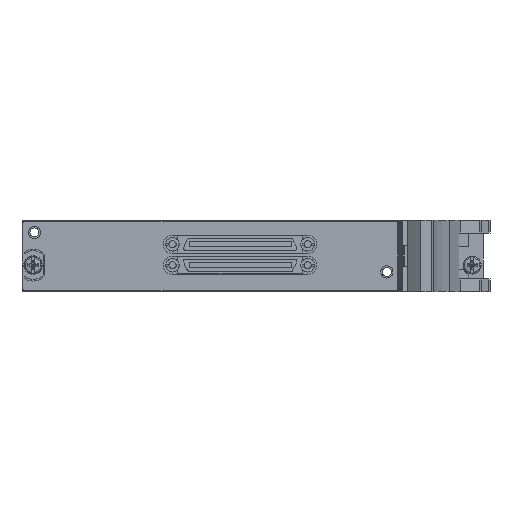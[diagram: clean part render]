
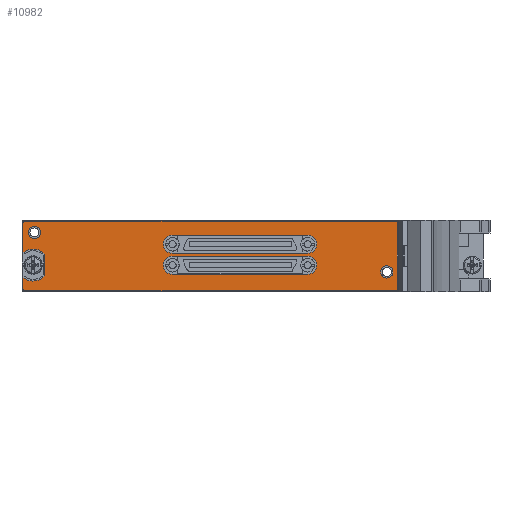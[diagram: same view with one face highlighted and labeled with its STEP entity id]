
A CAD part, left-side view. The second image highlights one B-rep face of the part: STEP entity #10982.
In plain terms, the highlighted planar face has unit normal (-1, 0, 0).
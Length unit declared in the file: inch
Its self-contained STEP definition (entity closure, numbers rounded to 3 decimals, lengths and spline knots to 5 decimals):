
#2601=CARTESIAN_POINT('',(-0.215,0.53465,0.665));
#2602=DIRECTION('',(-1.,0.,0.));
#2603=DIRECTION('',(0.,0.,1.));
#2604=AXIS2_PLACEMENT_3D('',#2601,#2602,#2603);
#2606=DIRECTION('',(0.,1.,0.));
#2607=VECTOR('',#2606,4.07);
#2608=CARTESIAN_POINT('',(-0.215,-3.53535,0.685));
#2609=LINE('',#2608,#2607);
#2610=CARTESIAN_POINT('',(-0.215,-3.53535,0.665));
#2611=DIRECTION('',(-1.,0.,0.));
#2612=DIRECTION('',(0.,-1.,0.));
#2613=AXIS2_PLACEMENT_3D('',#2610,#2611,#2612);
#2615=DIRECTION('',(0.,0.,1.));
#2616=VECTOR('',#2615,0.728);
#2617=CARTESIAN_POINT('',(-0.215,-3.55535,-0.063));
#2618=LINE('',#2617,#2616);
#2619=CARTESIAN_POINT('',(-0.215,-3.53535,-0.063));
#2620=DIRECTION('',(-1.,0.,0.));
#2621=DIRECTION('',(0.,0.,-1.));
#2622=AXIS2_PLACEMENT_3D('',#2619,#2620,#2621);
#2624=DIRECTION('',(0.,-1.,0.));
#2625=VECTOR('',#2624,4.07);
#2626=CARTESIAN_POINT('',(-0.215,0.53465,-0.083));
#2627=LINE('',#2626,#2625);
#2628=CARTESIAN_POINT('',(-0.215,0.53465,-0.063));
#2629=DIRECTION('',(-1.,0.,0.));
#2630=DIRECTION('',(0.,1.,0.));
#2631=AXIS2_PLACEMENT_3D('',#2628,#2629,#2630);
#2633=DIRECTION('',(0.,0.,-1.));
#2634=VECTOR('',#2633,0.12953);
#2635=CARTESIAN_POINT('',(-0.215,0.55465,0.06653));
#2636=LINE('',#2635,#2634);
#2637=CARTESIAN_POINT('',(-0.215,0.44265,0.201));
#2638=DIRECTION('',(1.,0.,0.));
#2639=DIRECTION('',(0.,-0.737,-0.676));
#2640=AXIS2_PLACEMENT_3D('',#2637,#2638,#2639);
#2642=DIRECTION('',(0.,0.,-1.));
#2643=VECTOR('',#2642,0.23651);
#2644=CARTESIAN_POINT('',(-0.215,0.31365,0.31925));
#2645=LINE('',#2644,#2643);
#2646=CARTESIAN_POINT('',(-0.215,0.44265,0.201));
#2647=DIRECTION('',(1.,0.,0.));
#2648=DIRECTION('',(0.,0.64,0.768));
#2649=AXIS2_PLACEMENT_3D('',#2646,#2647,#2648);
#2651=DIRECTION('',(0.,0.,-1.));
#2652=VECTOR('',#2651,0.32953);
#2653=CARTESIAN_POINT('',(-0.215,0.55465,0.665));
#2654=LINE('',#2653,#2652);
#2655=CARTESIAN_POINT('',(-0.215,0.42838,0.56));
#2656=DIRECTION('',(-1.,0.,0.));
#2657=DIRECTION('',(0.,0.,1.));
#2658=AXIS2_PLACEMENT_3D('',#2655,#2656,#2657);
#2660=CARTESIAN_POINT('',(-0.215,0.42838,0.56));
#2661=DIRECTION('',(-1.,0.,0.));
#2662=DIRECTION('',(0.,0.,-1.));
#2663=AXIS2_PLACEMENT_3D('',#2660,#2661,#2662);
#2665=CARTESIAN_POINT('',(-0.215,-3.44062,0.126));
#2666=DIRECTION('',(-1.,0.,0.));
#2667=DIRECTION('',(0.,0.,1.));
#2668=AXIS2_PLACEMENT_3D('',#2665,#2666,#2667);
#2670=CARTESIAN_POINT('',(-0.215,-3.44062,0.126));
#2671=DIRECTION('',(-1.,0.,0.));
#2672=DIRECTION('',(0.,0.,-1.));
#2673=AXIS2_PLACEMENT_3D('',#2670,#2671,#2672);
#2675=CARTESIAN_POINT('',(-0.215,-1.08735,0.4298));
#2676=DIRECTION('',(-1.,0.,0.));
#2677=DIRECTION('',(0.,0.,1.));
#2678=AXIS2_PLACEMENT_3D('',#2675,#2676,#2677);
#2680=DIRECTION('',(0.,-1.,0.));
#2681=VECTOR('',#2680,1.484);
#2682=CARTESIAN_POINT('',(-0.215,-1.08735,0.3298));
#2683=LINE('',#2682,#2681);
#2684=CARTESIAN_POINT('',(-0.215,-2.57135,0.4298));
#2685=DIRECTION('',(-1.,0.,0.));
#2686=DIRECTION('',(0.,0.,-1.));
#2687=AXIS2_PLACEMENT_3D('',#2684,#2685,#2686);
#2689=DIRECTION('',(0.,1.,0.));
#2690=VECTOR('',#2689,1.484);
#2691=CARTESIAN_POINT('',(-0.215,-2.57135,0.5298));
#2692=LINE('',#2691,#2690);
#2693=CARTESIAN_POINT('',(-0.215,-1.08735,0.1998));
#2694=DIRECTION('',(-1.,0.,0.));
#2695=DIRECTION('',(0.,0.,1.));
#2696=AXIS2_PLACEMENT_3D('',#2693,#2694,#2695);
#2698=DIRECTION('',(0.,-1.,0.));
#2699=VECTOR('',#2698,1.484);
#2700=CARTESIAN_POINT('',(-0.215,-1.08735,0.0998));
#2701=LINE('',#2700,#2699);
#2702=CARTESIAN_POINT('',(-0.215,-2.57135,0.1998));
#2703=DIRECTION('',(-1.,0.,0.));
#2704=DIRECTION('',(0.,0.,-1.));
#2705=AXIS2_PLACEMENT_3D('',#2702,#2703,#2704);
#2707=DIRECTION('',(0.,1.,0.));
#2708=VECTOR('',#2707,1.484);
#2709=CARTESIAN_POINT('',(-0.215,-2.57135,0.2998));
#2710=LINE('',#2709,#2708);
#7247=CARTESIAN_POINT('',(-0.215,0.53465,0.685));
#7248=CARTESIAN_POINT('',(-0.215,0.55465,0.665));
#7249=VERTEX_POINT('',#7247);
#7250=VERTEX_POINT('',#7248);
#7251=CARTESIAN_POINT('',(-0.215,0.55465,0.33547));
#7252=VERTEX_POINT('',#7251);
#7253=CARTESIAN_POINT('',(-0.215,0.31365,0.31925));
#7254=VERTEX_POINT('',#7253);
#7255=CARTESIAN_POINT('',(-0.215,0.31365,0.08275));
#7256=VERTEX_POINT('',#7255);
#7257=CARTESIAN_POINT('',(-0.215,0.55465,0.06653));
#7258=VERTEX_POINT('',#7257);
#7259=CARTESIAN_POINT('',(-0.215,0.55465,-0.063));
#7260=VERTEX_POINT('',#7259);
#7261=CARTESIAN_POINT('',(-0.215,0.53465,-0.083));
#7262=VERTEX_POINT('',#7261);
#7263=CARTESIAN_POINT('',(-0.215,-3.53535,-0.083));
#7264=VERTEX_POINT('',#7263);
#7265=CARTESIAN_POINT('',(-0.215,-3.55535,-0.063));
#7266=VERTEX_POINT('',#7265);
#7267=CARTESIAN_POINT('',(-0.215,-3.55535,0.665));
#7268=VERTEX_POINT('',#7267);
#7269=CARTESIAN_POINT('',(-0.215,-3.53535,0.685));
#7270=VERTEX_POINT('',#7269);
#7271=CARTESIAN_POINT('',(-0.215,0.42838,0.6275));
#7272=CARTESIAN_POINT('',(-0.215,0.42838,0.4925));
#7273=VERTEX_POINT('',#7271);
#7274=VERTEX_POINT('',#7272);
#7275=CARTESIAN_POINT('',(-0.215,-3.44062,0.1935));
#7276=CARTESIAN_POINT('',(-0.215,-3.44062,0.0585));
#7277=VERTEX_POINT('',#7275);
#7278=VERTEX_POINT('',#7276);
#7279=CARTESIAN_POINT('',(-0.215,-1.08735,0.5298));
#7280=CARTESIAN_POINT('',(-0.215,-1.08735,0.3298));
#7281=VERTEX_POINT('',#7279);
#7282=VERTEX_POINT('',#7280);
#7283=CARTESIAN_POINT('',(-0.215,-2.57135,0.3298));
#7284=VERTEX_POINT('',#7283);
#7285=CARTESIAN_POINT('',(-0.215,-2.57135,0.5298));
#7286=VERTEX_POINT('',#7285);
#7287=CARTESIAN_POINT('',(-0.215,-1.08735,0.2998));
#7288=CARTESIAN_POINT('',(-0.215,-1.08735,0.0998));
#7289=VERTEX_POINT('',#7287);
#7290=VERTEX_POINT('',#7288);
#7291=CARTESIAN_POINT('',(-0.215,-2.57135,0.0998));
#7292=VERTEX_POINT('',#7291);
#7293=CARTESIAN_POINT('',(-0.215,-2.57135,0.2998));
#7294=VERTEX_POINT('',#7293);
#10931=CARTESIAN_POINT('',(-0.215,0.44265,0.201));
#10932=DIRECTION('',(-1.,0.,0.));
#10933=DIRECTION('',(0.,0.,1.));
#10934=AXIS2_PLACEMENT_3D('',#10931,#10932,#10933);
#10935=PLANE('',#10934);
#10936=ORIENTED_EDGE('',*,*,#10771,.F.);
#10937=ORIENTED_EDGE('',*,*,#10786,.F.);
#10938=ORIENTED_EDGE('',*,*,#10800,.F.);
#10939=ORIENTED_EDGE('',*,*,#10814,.F.);
#10940=ORIENTED_EDGE('',*,*,#10828,.F.);
#10941=ORIENTED_EDGE('',*,*,#10842,.F.);
#10942=ORIENTED_EDGE('',*,*,#10856,.F.);
#10943=ORIENTED_EDGE('',*,*,#10870,.F.);
#10944=ORIENTED_EDGE('',*,*,#10884,.F.);
#10945=ORIENTED_EDGE('',*,*,#10898,.F.);
#10946=ORIENTED_EDGE('',*,*,#10912,.F.);
#10947=ORIENTED_EDGE('',*,*,#10925,.F.);
#10948=EDGE_LOOP('',(#10936,#10937,#10938,#10939,#10940,#10941,#10942,#10943,
#10944,#10945,#10946,#10947));
#10949=FACE_OUTER_BOUND('',#10948,.F.);
#10951=ORIENTED_EDGE('',*,*,#10950,.T.);
#10953=ORIENTED_EDGE('',*,*,#10952,.T.);
#10954=EDGE_LOOP('',(#10951,#10953));
#10955=FACE_BOUND('',#10954,.F.);
#10957=ORIENTED_EDGE('',*,*,#10956,.T.);
#10959=ORIENTED_EDGE('',*,*,#10958,.T.);
#10960=EDGE_LOOP('',(#10957,#10959));
#10961=FACE_BOUND('',#10960,.F.);
#10963=ORIENTED_EDGE('',*,*,#10962,.T.);
#10965=ORIENTED_EDGE('',*,*,#10964,.T.);
#10967=ORIENTED_EDGE('',*,*,#10966,.T.);
#10969=ORIENTED_EDGE('',*,*,#10968,.T.);
#10970=EDGE_LOOP('',(#10963,#10965,#10967,#10969));
#10971=FACE_BOUND('',#10970,.F.);
#10973=ORIENTED_EDGE('',*,*,#10972,.T.);
#10975=ORIENTED_EDGE('',*,*,#10974,.T.);
#10977=ORIENTED_EDGE('',*,*,#10976,.T.);
#10979=ORIENTED_EDGE('',*,*,#10978,.T.);
#10980=EDGE_LOOP('',(#10973,#10975,#10977,#10979));
#10981=FACE_BOUND('',#10980,.F.);
#10982=ADVANCED_FACE('',(#10949,#10955,#10961,#10971,#10981),#10935,.T.);
#2605=CIRCLE('',#2604,0.02);
#2614=CIRCLE('',#2613,0.02);
#2623=CIRCLE('',#2622,0.02);
#2632=CIRCLE('',#2631,0.02);
#2641=CIRCLE('',#2640,0.175);
#2650=CIRCLE('',#2649,0.175);
#2659=CIRCLE('',#2658,0.0675);
#2664=CIRCLE('',#2663,0.0675);
#2669=CIRCLE('',#2668,0.0675);
#2674=CIRCLE('',#2673,0.0675);
#2679=CIRCLE('',#2678,0.1);
#2688=CIRCLE('',#2687,0.1);
#2697=CIRCLE('',#2696,0.1);
#2706=CIRCLE('',#2705,0.1);
#10771=EDGE_CURVE('',#7249,#7250,#2605,.T.);
#10786=EDGE_CURVE('',#7270,#7249,#2609,.T.);
#10800=EDGE_CURVE('',#7268,#7270,#2614,.T.);
#10814=EDGE_CURVE('',#7266,#7268,#2618,.T.);
#10828=EDGE_CURVE('',#7264,#7266,#2623,.T.);
#10842=EDGE_CURVE('',#7262,#7264,#2627,.T.);
#10856=EDGE_CURVE('',#7260,#7262,#2632,.T.);
#10870=EDGE_CURVE('',#7258,#7260,#2636,.T.);
#10884=EDGE_CURVE('',#7256,#7258,#2641,.T.);
#10898=EDGE_CURVE('',#7254,#7256,#2645,.T.);
#10912=EDGE_CURVE('',#7252,#7254,#2650,.T.);
#10925=EDGE_CURVE('',#7250,#7252,#2654,.T.);
#10950=EDGE_CURVE('',#7273,#7274,#2659,.T.);
#10952=EDGE_CURVE('',#7274,#7273,#2664,.T.);
#10956=EDGE_CURVE('',#7277,#7278,#2669,.T.);
#10958=EDGE_CURVE('',#7278,#7277,#2674,.T.);
#10962=EDGE_CURVE('',#7281,#7282,#2679,.T.);
#10964=EDGE_CURVE('',#7282,#7284,#2683,.T.);
#10966=EDGE_CURVE('',#7284,#7286,#2688,.T.);
#10968=EDGE_CURVE('',#7286,#7281,#2692,.T.);
#10972=EDGE_CURVE('',#7289,#7290,#2697,.T.);
#10974=EDGE_CURVE('',#7290,#7292,#2701,.T.);
#10976=EDGE_CURVE('',#7292,#7294,#2706,.T.);
#10978=EDGE_CURVE('',#7294,#7289,#2710,.T.);
